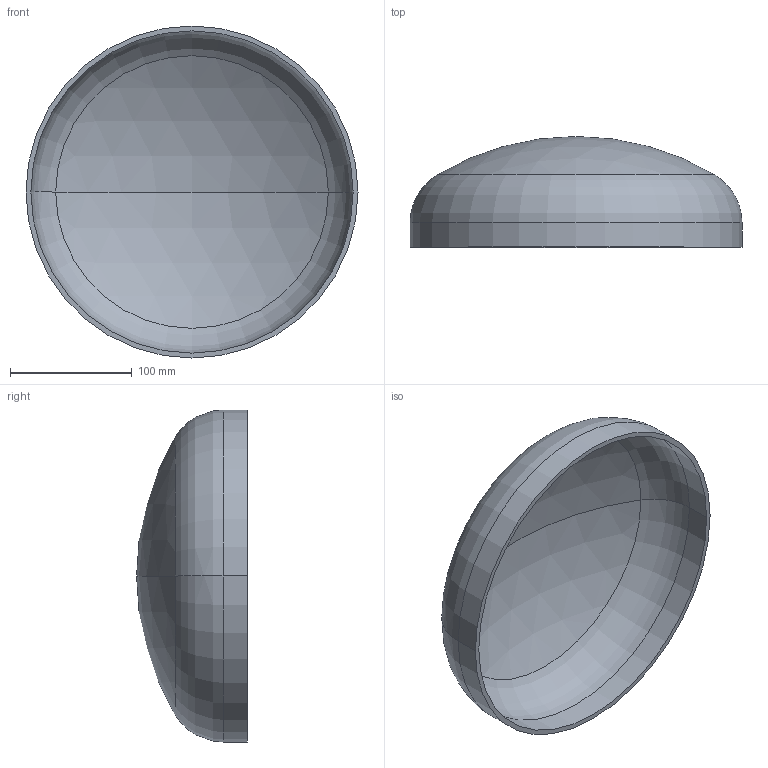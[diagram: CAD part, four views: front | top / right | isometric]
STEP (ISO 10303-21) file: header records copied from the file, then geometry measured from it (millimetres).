
FILE_DESCRIPTION (( 'STEP AP203' ), '1' );
FILE_NAME ('DIN 28013 Korbbogenform_-_Boden DIN 28013 - 273 x 20 - I - s=4.step', '2016-07-01T07:42:52', ( '' ), ( '' ), 'SwSTEP 2.0', 'SolidWorks 2013', '' );
FILE_SCHEMA (( 'CONFIG_CONTROL_DESIGN' ));
Length unit declared in the file: millimetre
Products named in the file (1): DIN 28013 Korbbogenform_-_Boden DIN 28013 - 273 x 20 - I - s=4
Bounding box: 273 x 91.05 x 273 mm (x, y, z)
Volume: 385661.2 mm3; surface area: 196244.4 mm2
Topology: 1 solids, 1 shells, 13 faces, 24 edges, 14 vertices
Faces by surface type: torus 4, cylinder 4, sphere 4, plane 1
Entity records: 407 total; most frequent: DIRECTION 72, CARTESIAN_POINT 52, ORIENTED_EDGE 48, AXIS2_PLACEMENT_3D 34, EDGE_CURVE 24, CIRCLE 20, VERTEX_POINT 14, EDGE_LOOP 14
